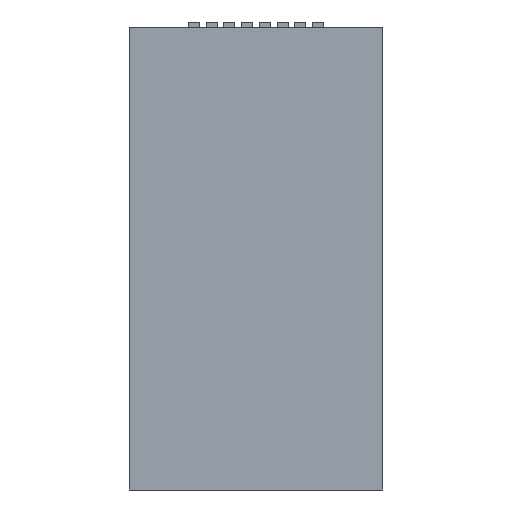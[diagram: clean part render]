
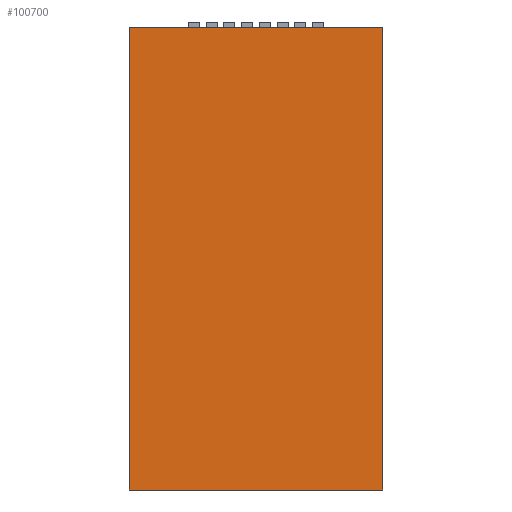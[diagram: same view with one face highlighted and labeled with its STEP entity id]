
A CAD part, front view. The second image highlights one B-rep face of the part: STEP entity #100700.
In plain terms, the highlighted planar face has unit normal (0, -1, 0).
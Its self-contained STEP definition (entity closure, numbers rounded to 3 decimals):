
#2732=FACE_OUTER_BOUND('',#7578,.T.);
#7578=EDGE_LOOP('',(#66867,#66868,#66869,#66870));
#14452=LINE('',#135629,#28574);
#14454=LINE('',#135635,#28576);
#14459=LINE('',#135643,#28581);
#14460=LINE('',#135644,#28582);
#28574=VECTOR('',#110880,10.);
#28576=VECTOR('',#110884,10.);
#28581=VECTOR('',#110893,10.);
#28582=VECTOR('',#110894,10.);
#42693=VERTEX_POINT('',#135622);
#42696=VERTEX_POINT('',#135627);
#42698=VERTEX_POINT('',#135632);
#42699=VERTEX_POINT('',#135634);
#52258=EDGE_CURVE('',#42696,#42693,#14452,.T.);
#52260=EDGE_CURVE('',#42698,#42699,#14454,.T.);
#52265=EDGE_CURVE('',#42693,#42698,#14459,.T.);
#52266=EDGE_CURVE('',#42699,#42696,#14460,.T.);
#66867=ORIENTED_EDGE('',*,*,#52265,.F.);
#66868=ORIENTED_EDGE('',*,*,#52258,.F.);
#66869=ORIENTED_EDGE('',*,*,#52266,.F.);
#66870=ORIENTED_EDGE('',*,*,#52260,.F.);
#96058=PLANE('',#105563);
#100700=ADVANCED_FACE('',(#2732),#96058,.T.);
#105563=AXIS2_PLACEMENT_3D('',#135642,#110891,#110892);
#110880=DIRECTION('',(0.,0.,1.));
#110884=DIRECTION('',(0.,0.,-1.));
#110891=DIRECTION('center_axis',(0.,-1.,0.));
#110892=DIRECTION('ref_axis',(0.,0.,-1.));
#110893=DIRECTION('',(1.,0.,0.));
#110894=DIRECTION('',(-1.,0.,0.));
#135622=CARTESIAN_POINT('',(-260.,-480.,175.404));
#135627=CARTESIAN_POINT('',(-260.,-480.,-1500.));
#135629=CARTESIAN_POINT('',(-260.,-480.,0.));
#135632=CARTESIAN_POINT('',(660.,-480.,175.404));
#135634=CARTESIAN_POINT('',(660.,-480.,-1500.));
#135635=CARTESIAN_POINT('',(660.,-480.,0.));
#135642=CARTESIAN_POINT('Origin',(-60.,-480.,0.));
#135643=CARTESIAN_POINT('',(460.,-480.,175.404));
#135644=CARTESIAN_POINT('',(-60.,-480.,-1500.));
